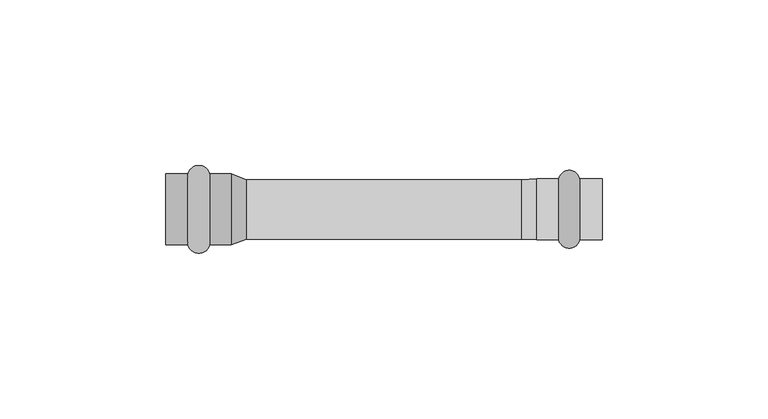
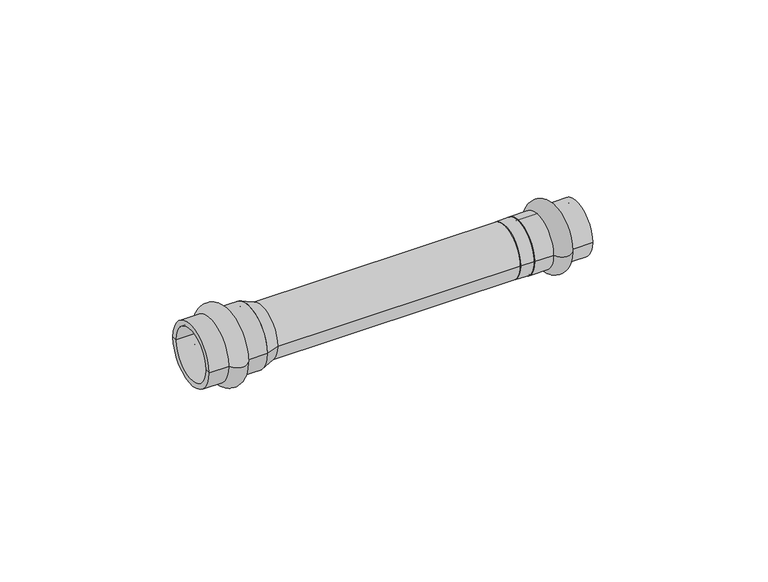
"""IFC4 building model written with IfcOpenShell, lengths in millimetres: pipe fitting geometry, VALTEC_VTi.903.I_Соединитель прямой нержавеющая сталь : VTi.903.I."""

from ifc_helpers import new_model, si_unit, point, frame, origin, origin_2d, place, context, project, spatial, polyline, circle_curve, ellipse_curve, trimmed, segment, composite_curve, outline, extrude, source, transform, mapped, element, save
from ifc_brep_helpers import plane_surface, cylinder_surface, revolved_surface, advanced_brep


def pipe_fitting_a96cd5e7(model_context):
    return source(origin(), model_context, "Body", "SolidModel", [
        advanced_brep(
        [(125.1122777, 9.25, 0.0), (125.1122777, -9.25, 0.0), (118.7877223, -9.25, 0.0), (118.7877223, 9.25, 0.0), (132.0, 9.25, 0.0), (132.0, -9.25, 0.0), (132.0, 7.5, 0.0), (132.0, -7.5, 0.0), (112.2, 7.5, 0.0), (112.2, -7.5, 0.0), (112.2, 9.25, 0.0), (112.2, -9.25, 0.0)],
        [
            (0, 1, circle_curve(frame((125.1122777, 0.0, 0.0), z_axis=(-1.0, 0.0, 0.0), x_axis=(0.0, -1.0, 0.0)), 9.25)),
            (1, 2, circle_curve(frame((121.95, -8.5, 0.0), z_axis=(0.0, 0.0, -1.0), x_axis=(-1.0, 0.0, 0.0)), 3.25)),
            (2, 3, circle_curve(frame((118.7877223, 0.0, 0.0), z_axis=(1.0, 0.0, 0.0), x_axis=(0.0, -1.0, 0.0)), 9.25)),
            (3, 0, circle_curve(frame((121.95, 8.5, 0.0), z_axis=(0.0, 0.0, -1.0), x_axis=(-1.0, 0.0, 0.0)), 3.25)),
            (1, 0, circle_curve(frame((125.1122777, 0.0, 0.0), z_axis=(-1.0, 0.0, 0.0), x_axis=(0.0, -1.0, 0.0)), 9.25)),
            (3, 2, circle_curve(frame((118.7877223, 0.0, 0.0), z_axis=(1.0, 0.0, 0.0), x_axis=(0.0, -1.0, 0.0)), 9.25)),
            (4, 5, circle_curve(frame((132.0, 0.0, 0.0), z_axis=(-1.0, 0.0, 0.0), x_axis=(0.0, -1.0, 0.0)), 9.25)),
            (5, 1),
            (0, 4),
            (5, 4, circle_curve(frame((132.0, 0.0, 0.0), z_axis=(-1.0, 0.0, 0.0), x_axis=(0.0, -1.0, 0.0)), 9.25)),
            (6, 7, circle_curve(frame((132.0, 0.0, 0.0), z_axis=(-1.0, 0.0, 0.0), x_axis=(0.0, -1.0, 0.0)), 7.5)),
            (7, 5),
            (4, 6),
            (7, 6, circle_curve(frame((132.0, 0.0, 0.0), z_axis=(-1.0, 0.0, 0.0), x_axis=(0.0, -1.0, 0.0)), 7.5)),
            (8, 9, circle_curve(frame((112.2, 0.0, 0.0), z_axis=(-1.0, 0.0, 0.0), x_axis=(0.0, -1.0, 0.0)), 7.5)),
            (9, 7),
            (6, 8),
            (9, 8, circle_curve(frame((112.2, 0.0, 0.0), z_axis=(-1.0, 0.0, 0.0), x_axis=(0.0, -1.0, 0.0)), 7.5)),
            (10, 11, circle_curve(frame((112.2, 0.0, 0.0), z_axis=(-1.0, 0.0, 0.0), x_axis=(0.0, -1.0, 0.0)), 9.25)),
            (11, 9),
            (8, 10),
            (11, 10, circle_curve(frame((112.2, 0.0, 0.0), z_axis=(-1.0, 0.0, 0.0), x_axis=(0.0, -1.0, 0.0)), 9.25)),
            (2, 11),
            (10, 3),
        ],
        [
            revolved_surface(trimmed(ellipse_curve(frame((121.95, -8.5, 0.0), z_axis=(0.0, 0.0, 1.0), x_axis=(-1.0, 0.0, 0.0)), 3.25, 3.25), [point((118.7877223, -9.25, 0.0))], [point((125.1122777, -9.25, 0.0))], True, "CARTESIAN"), (135.5364426, 0.0, 0.0), (1.0, 0.0, 0.0)),
            cylinder_surface(frame((135.5364426, 0.0, 0.0), z_axis=(1.0, 0.0, 0.0), x_axis=(0.0, -1.0, 0.0)), 9.25),
            plane_surface(frame((132.0, 0.0, 0.0), z_axis=(1.0, 0.0, 0.0), x_axis=(0.0, -1.0, 0.0))),
            revolved_surface(polyline([(132.0, -7.5, 0.0), (112.2, -7.5, 0.0)]), (135.5364426, 0.0, 0.0), (1.0, 0.0, 0.0)),
            plane_surface(frame((112.2, 0.0, 0.0), z_axis=(-1.0, 0.0, 0.0), x_axis=(0.0, -1.0, 0.0))),
        ],
        [
            (0, [[1, 2, 3, 4]]),
            (0, [[5, -4, 6, -2]]),
            (1, [[7, 8, -1, 9]]),
            (1, [[10, -9, -5, -8]]),
            (2, [[11, 12, -7, 13]]),
            (2, [[14, -13, -10, -12]]),
            (3, [[15, 16, -11, 17]]),
            (3, [[18, -17, -14, -16]]),
            (4, [[19, 20, -15, 21]]),
            (4, [[22, -21, -18, -20]]),
            (1, [[-3, 23, -19, 24]]),
            (1, [[-6, -24, -22, -23]]),
        ],
    ),
        advanced_brep(
        [(6.7712807, -10.75, 0.0), (6.7712807, 10.75, 0.0), (13.3287193, 10.75, 0.0), (13.3287193, -10.75, 0.0), (0.0, -10.75, 0.0), (0.0, 10.75, 0.0), (0.0, -9.0, 0.0), (0.0, 9.0, 0.0), (19.8, -9.0, 0.0), (19.8, 9.0, 0.0), (19.8, -10.75, 0.0), (19.8, 10.75, 0.0)],
        [
            (0, 1, circle_curve(frame((6.7712807, 0.0, 0.0), z_axis=(1.0, 0.0, 0.0), x_axis=(0.0, 1.0, 0.0)), 10.75)),
            (1, 2, circle_curve(frame((10.05, 9.85, 0.0), z_axis=(0.0, 0.0, -1.0), x_axis=(1.0, 0.0, 0.0)), 3.4)),
            (2, 3, circle_curve(frame((13.3287193, 0.0, 0.0), z_axis=(-1.0, 0.0, 0.0), x_axis=(0.0, 1.0, 0.0)), 10.75)),
            (3, 0, circle_curve(frame((10.05, -9.85, 0.0), z_axis=(0.0, 0.0, -1.0), x_axis=(1.0, 0.0, 0.0)), 3.4)),
            (1, 0, circle_curve(frame((6.7712807, 0.0, 0.0), z_axis=(1.0, 0.0, 0.0), x_axis=(0.0, 1.0, 0.0)), 10.75)),
            (3, 2, circle_curve(frame((13.3287193, 0.0, 0.0), z_axis=(-1.0, 0.0, 0.0), x_axis=(0.0, 1.0, 0.0)), 10.75)),
            (4, 5, circle_curve(frame((0.0, 0.0, 0.0), z_axis=(1.0, 0.0, 0.0), x_axis=(0.0, 1.0, 0.0)), 10.75)),
            (5, 1),
            (0, 4),
            (5, 4, circle_curve(frame((0.0, 0.0, 0.0), z_axis=(1.0, 0.0, 0.0), x_axis=(0.0, 1.0, 0.0)), 10.75)),
            (6, 7, circle_curve(frame((0.0, 0.0, 0.0), z_axis=(1.0, 0.0, 0.0), x_axis=(0.0, 1.0, 0.0)), 9.0)),
            (7, 5),
            (4, 6),
            (7, 6, circle_curve(frame((0.0, 0.0, 0.0), z_axis=(1.0, 0.0, 0.0), x_axis=(0.0, 1.0, 0.0)), 9.0)),
            (8, 9, circle_curve(frame((19.8, 0.0, 0.0), z_axis=(1.0, 0.0, 0.0), x_axis=(0.0, 1.0, 0.0)), 9.0)),
            (9, 7),
            (6, 8),
            (9, 8, circle_curve(frame((19.8, 0.0, 0.0), z_axis=(1.0, 0.0, 0.0), x_axis=(0.0, 1.0, 0.0)), 9.0)),
            (10, 11, circle_curve(frame((19.8, 0.0, 0.0), z_axis=(1.0, 0.0, 0.0), x_axis=(0.0, 1.0, 0.0)), 10.75)),
            (11, 9),
            (8, 10),
            (11, 10, circle_curve(frame((19.8, 0.0, 0.0), z_axis=(1.0, 0.0, 0.0), x_axis=(0.0, 1.0, 0.0)), 10.75)),
            (2, 11),
            (10, 3),
        ],
        [
            revolved_surface(trimmed(ellipse_curve(frame((10.05, 9.85, 0.0), z_axis=(0.0, 0.0, 1.0), x_axis=(1.0, 0.0, 0.0)), 3.4, 3.4), [point((13.3287193, 10.75, 0.0))], [point((6.7712807, 10.75, 0.0))], True, "CARTESIAN"), (-3.5364426, 0.0, 0.0), (-1.0, 0.0, 0.0)),
            cylinder_surface(frame((-3.5364426, 0.0, 0.0), z_axis=(-1.0, 0.0, 0.0), x_axis=(0.0, 1.0, 0.0)), 10.75),
            plane_surface(frame((0.0, 0.0, 0.0), z_axis=(-1.0, 0.0, 0.0), x_axis=(0.0, 1.0, 0.0))),
            revolved_surface(polyline([(0.0, 9.0, 0.0), (19.8, 9.0, 0.0)]), (-3.5364426, 0.0, 0.0), (-1.0, 0.0, 0.0)),
            plane_surface(frame((19.8, 0.0, 0.0), z_axis=(1.0, 0.0, 0.0), x_axis=(0.0, 1.0, 0.0))),
        ],
        [
            (0, [[1, 2, 3, 4]]),
            (0, [[5, -4, 6, -2]]),
            (1, [[7, 8, -1, 9]]),
            (1, [[10, -9, -5, -8]]),
            (2, [[11, 12, -7, 13]]),
            (2, [[14, -13, -10, -12]]),
            (3, [[15, 16, -11, 17]]),
            (3, [[18, -17, -14, -16]]),
            (4, [[19, 20, -15, 21]]),
            (4, [[22, -21, -18, -20]]),
            (1, [[-3, 23, -19, 24]]),
            (1, [[-6, -24, -22, -23]]),
        ],
    ),
        advanced_brep(
        [(19.8, -10.75, 0.0), (19.8, 10.75, 0.0), (24.42, -9.0, 0.0), (24.42, 9.0, 0.0)],
        [
            (0, 1, circle_curve(frame((19.8, 0.0, 0.0), z_axis=(-1.0, 0.0, 0.0), x_axis=(0.0, -1.0, 0.0)), 10.75)),
            (1, 0, circle_curve(frame((19.8, 0.0, 0.0), z_axis=(-1.0, 0.0, 0.0), x_axis=(0.0, 1.0, 0.0)), 10.75)),
            (2, 3, circle_curve(frame((24.42, 0.0, 0.0), z_axis=(1.0, 0.0, 0.0), x_axis=(0.0, 1.0, 0.0)), 9.0)),
            (3, 2, circle_curve(frame((24.42, 0.0, 0.0), z_axis=(1.0, 0.0, 0.0), x_axis=(0.0, -1.0, 0.0)), 9.0)),
            (2, 0),
            (1, 3),
        ],
        [
            plane_surface(frame((19.8, 0.0, 0.0), z_axis=(-1.0, 0.0, 0.0), x_axis=(0.0, 0.0, 1.0))),
            plane_surface(frame((24.42, 0.0, 0.0), z_axis=(1.0, 0.0, 0.0), x_axis=(0.0, 0.0, 1.0))),
            revolved_surface(polyline([(24.42, -9.0, 0.0), (19.8, -10.75, 0.0)]), (48.18, 0.0, 0.0), (-1.0, 0.0, 0.0)),
            revolved_surface(polyline([(24.42, 9.0, 0.0), (19.8, 10.75, 0.0)]), (48.18, 0.0, 0.0), (-1.0, 0.0, 0.0)),
        ],
        [
            (0, [[1, 2]]),
            (1, [[3, 4]]),
            (2, [[-3, 5, -2, 6]]),
            (3, [[-4, -6, -1, -5]]),
        ],
    ),
        advanced_brep(
        [(112.2, -9.25, 0.0), (112.2, 9.25, 0.0), (107.58, -9.0, 0.0), (107.58, 9.0, 0.0)],
        [
            (0, 1, circle_curve(frame((112.2, 0.0, 0.0), z_axis=(1.0, 0.0, 0.0), x_axis=(0.0, -1.0, 0.0)), 9.25)),
            (1, 0, circle_curve(frame((112.2, 0.0, 0.0), z_axis=(1.0, 0.0, 0.0), x_axis=(0.0, 1.0, 0.0)), 9.25)),
            (2, 3, circle_curve(frame((107.58, 0.0, 0.0), z_axis=(-1.0, 0.0, 0.0), x_axis=(0.0, 1.0, 0.0)), 9.0)),
            (3, 2, circle_curve(frame((107.58, 0.0, 0.0), z_axis=(-1.0, 0.0, 0.0), x_axis=(0.0, -1.0, 0.0)), 9.0)),
            (3, 1),
            (0, 2),
        ],
        [
            plane_surface(frame((112.2, 0.0, 0.0), z_axis=(1.0, 0.0, 0.0), x_axis=(0.0, 0.0, -1.0))),
            plane_surface(frame((107.58, 0.0, 0.0), z_axis=(-1.0, 0.0, 0.0), x_axis=(0.0, 0.0, -1.0))),
            revolved_surface(polyline([(107.57999999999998, 9.0, 0.0), (112.19999999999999, 9.25, 0.0)]), (-58.74, 0.0, 0.0), (1.0, 0.0, 0.0)),
            revolved_surface(polyline([(107.57999999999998, -9.0, 0.0), (112.19999999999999, -9.25, 0.0)]), (-58.74, 0.0, 0.0), (1.0, 0.0, 0.0)),
        ],
        [
            (0, [[1, 2]]),
            (1, [[3, 4]]),
            (2, [[-4, 5, -1, 6]]),
            (3, [[-3, -6, -2, -5]]),
        ],
    ),
        extrude(outline(composite_curve([segment(trimmed(circle_curve(origin_2d(), 9.0), [point((-9.0, 0.0))], [point((9.0, 0.0))], False, "CARTESIAN"), True, "CONTINUOUS"), segment(trimmed(circle_curve(origin_2d(), 9.0), [point((9.0, 0.0))], [point((-9.0, 0.0))], False, "CARTESIAN"), True, "CONTINUOUS")], self_intersect=False)), frame((19.8, 0.0, 0.0), z_axis=(1.0, 0.0, 0.0), x_axis=(0.0, 1.0, 0.0)), (0.0, 0.0, 1.0), 92.4),
    ])


if __name__ == "__main__":
    model = new_model("IFC4")
    model_context = context("Model", 3, world=origin())
    ifc_project = project(units=[si_unit("LENGTHUNIT", "METRE", prefix="MILLI")], contexts=[model_context])
    site = spatial("IfcSite", under=ifc_project)
    building = spatial("IfcBuilding", under=site)
    placement = place(None, origin())
    pipe_fitting_shape = pipe_fitting_a96cd5e7(model_context)
    element("IfcPipeFitting", 1, ObjectType="VALTEC_VTi.903.I_Соединитель прямой нержавеющая сталь : VTi.903.I", at=placement, inside=building, context=model_context, shape_type="MappedRepresentation", body=[
        mapped(pipe_fitting_shape, transform((0.0, 0.0, 0.0), x_axis=(1.0, 0.0, 0.0), y_axis=(0.0, 1.0, 0.0), z_axis=(0.0, 0.0, 1.0))),
    ])
    save(model, "model.ifc")
